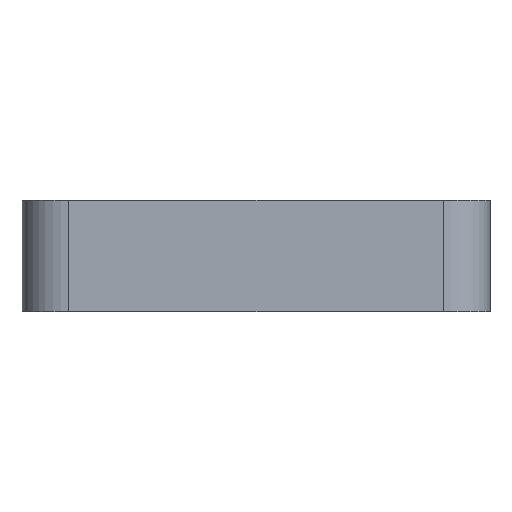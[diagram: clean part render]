
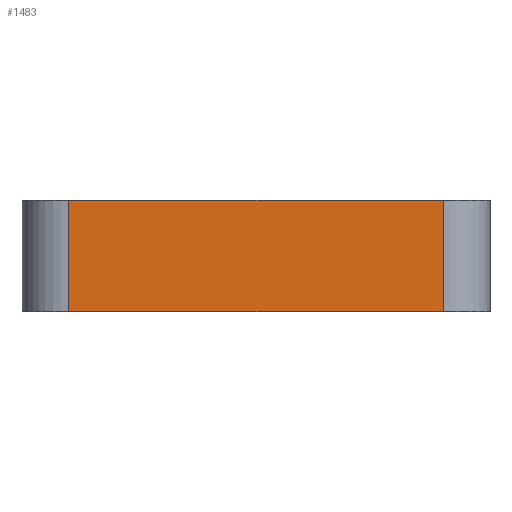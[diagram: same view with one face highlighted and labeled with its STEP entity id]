
A CAD part, left-side view. The second image highlights one B-rep face of the part: STEP entity #1483.
In plain terms, the highlighted planar face has unit normal (-1, 0, 0).
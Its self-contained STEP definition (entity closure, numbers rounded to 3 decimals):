
#44 = CYLINDRICAL_SURFACE('',#45,5.);
#45 = AXIS2_PLACEMENT_3D('',#46,#47,#48);
#46 = CARTESIAN_POINT('',(-18.5,-20.,1.8));
#47 = DIRECTION('',(-0.,-0.,-1.));
#48 = DIRECTION('',(1.,0.,0.));
#72 = PLANE('',#73);
#73 = AXIS2_PLACEMENT_3D('',#74,#75,#76);
#74 = CARTESIAN_POINT('',(0.,0.,13.7));
#75 = DIRECTION('',(0.,0.,1.));
#76 = DIRECTION('',(1.,0.,-0.));
#126 = PLANE('',#127);
#127 = AXIS2_PLACEMENT_3D('',#128,#129,#130);
#128 = CARTESIAN_POINT('',(0.,0.,1.8));
#129 = DIRECTION('',(0.,0.,1.));
#130 = DIRECTION('',(1.,0.,-0.));
#248 = VERTEX_POINT('',#249);
#249 = CARTESIAN_POINT('',(-23.5,-20.,1.8));
#271 = EDGE_CURVE('',#248,#272,#274,.T.);
#272 = VERTEX_POINT('',#273);
#273 = CARTESIAN_POINT('',(-23.5,-20.,13.7));
#274 = SURFACE_CURVE('',#275,(#279,#286),.PCURVE_S1.);
#275 = LINE('',#276,#277);
#276 = CARTESIAN_POINT('',(-23.5,-20.,1.8));
#277 = VECTOR('',#278,1.);
#278 = DIRECTION('',(0.,0.,1.));
#279 = PCURVE('',#44,#280);
#280 = DEFINITIONAL_REPRESENTATION('',(#281),#285);
#281 = LINE('',#282,#283);
#282 = CARTESIAN_POINT('',(-3.142,0.));
#283 = VECTOR('',#284,1.);
#284 = DIRECTION('',(-0.,-1.));
#285 = ( GEOMETRIC_REPRESENTATION_CONTEXT(2) 
PARAMETRIC_REPRESENTATION_CONTEXT() REPRESENTATION_CONTEXT('2D SPACE',''
  ) );
#286 = PCURVE('',#287,#292);
#287 = PLANE('',#288);
#288 = AXIS2_PLACEMENT_3D('',#289,#290,#291);
#289 = CARTESIAN_POINT('',(-23.5,20.,1.8));
#290 = DIRECTION('',(1.,0.,-0.));
#291 = DIRECTION('',(0.,-1.,0.));
#292 = DEFINITIONAL_REPRESENTATION('',(#293),#297);
#293 = LINE('',#294,#295);
#294 = CARTESIAN_POINT('',(40.,0.));
#295 = VECTOR('',#296,1.);
#296 = DIRECTION('',(0.,-1.));
#297 = ( GEOMETRIC_REPRESENTATION_CONTEXT(2) 
PARAMETRIC_REPRESENTATION_CONTEXT() REPRESENTATION_CONTEXT('2D SPACE',''
  ) );
#325 = EDGE_CURVE('',#326,#248,#328,.T.);
#326 = VERTEX_POINT('',#327);
#327 = CARTESIAN_POINT('',(-23.5,20.,1.8));
#328 = SURFACE_CURVE('',#329,(#333,#340),.PCURVE_S1.);
#329 = LINE('',#330,#331);
#330 = CARTESIAN_POINT('',(-23.5,20.,1.8));
#331 = VECTOR('',#332,1.);
#332 = DIRECTION('',(0.,-1.,0.));
#333 = PCURVE('',#126,#334);
#334 = DEFINITIONAL_REPRESENTATION('',(#335),#339);
#335 = LINE('',#336,#337);
#336 = CARTESIAN_POINT('',(-23.5,20.));
#337 = VECTOR('',#338,1.);
#338 = DIRECTION('',(0.,-1.));
#339 = ( GEOMETRIC_REPRESENTATION_CONTEXT(2) 
PARAMETRIC_REPRESENTATION_CONTEXT() REPRESENTATION_CONTEXT('2D SPACE',''
  ) );
#340 = PCURVE('',#287,#341);
#341 = DEFINITIONAL_REPRESENTATION('',(#342),#346);
#342 = LINE('',#343,#344);
#343 = CARTESIAN_POINT('',(0.,0.));
#344 = VECTOR('',#345,1.);
#345 = DIRECTION('',(1.,0.));
#346 = ( GEOMETRIC_REPRESENTATION_CONTEXT(2) 
PARAMETRIC_REPRESENTATION_CONTEXT() REPRESENTATION_CONTEXT('2D SPACE',''
  ) );
#474 = CYLINDRICAL_SURFACE('',#475,5.);
#475 = AXIS2_PLACEMENT_3D('',#476,#477,#478);
#476 = CARTESIAN_POINT('',(-18.5,20.,1.8));
#477 = DIRECTION('',(-0.,-0.,-1.));
#478 = DIRECTION('',(1.,0.,0.));
#995 = EDGE_CURVE('',#996,#272,#998,.T.);
#996 = VERTEX_POINT('',#997);
#997 = CARTESIAN_POINT('',(-23.5,20.,13.7));
#998 = SURFACE_CURVE('',#999,(#1003,#1010),.PCURVE_S1.);
#999 = LINE('',#1000,#1001);
#1000 = CARTESIAN_POINT('',(-23.5,20.,13.7));
#1001 = VECTOR('',#1002,1.);
#1002 = DIRECTION('',(0.,-1.,0.));
#1003 = PCURVE('',#72,#1004);
#1004 = DEFINITIONAL_REPRESENTATION('',(#1005),#1009);
#1005 = LINE('',#1006,#1007);
#1006 = CARTESIAN_POINT('',(-23.5,20.));
#1007 = VECTOR('',#1008,1.);
#1008 = DIRECTION('',(0.,-1.));
#1009 = ( GEOMETRIC_REPRESENTATION_CONTEXT(2) 
PARAMETRIC_REPRESENTATION_CONTEXT() REPRESENTATION_CONTEXT('2D SPACE',''
  ) );
#1010 = PCURVE('',#287,#1011);
#1011 = DEFINITIONAL_REPRESENTATION('',(#1012),#1016);
#1012 = LINE('',#1013,#1014);
#1013 = CARTESIAN_POINT('',(0.,-11.9));
#1014 = VECTOR('',#1015,1.);
#1015 = DIRECTION('',(1.,0.));
#1016 = ( GEOMETRIC_REPRESENTATION_CONTEXT(2) 
PARAMETRIC_REPRESENTATION_CONTEXT() REPRESENTATION_CONTEXT('2D SPACE',''
  ) );
#1483 = ADVANCED_FACE('',(#1484),#287,.F.);
#1484 = FACE_BOUND('',#1485,.F.);
#1485 = EDGE_LOOP('',(#1486,#1507,#1508,#1509));
#1486 = ORIENTED_EDGE('',*,*,#1487,.T.);
#1487 = EDGE_CURVE('',#326,#996,#1488,.T.);
#1488 = SURFACE_CURVE('',#1489,(#1493,#1500),.PCURVE_S1.);
#1489 = LINE('',#1490,#1491);
#1490 = CARTESIAN_POINT('',(-23.5,20.,1.8));
#1491 = VECTOR('',#1492,1.);
#1492 = DIRECTION('',(0.,0.,1.));
#1493 = PCURVE('',#287,#1494);
#1494 = DEFINITIONAL_REPRESENTATION('',(#1495),#1499);
#1495 = LINE('',#1496,#1497);
#1496 = CARTESIAN_POINT('',(0.,0.));
#1497 = VECTOR('',#1498,1.);
#1498 = DIRECTION('',(0.,-1.));
#1499 = ( GEOMETRIC_REPRESENTATION_CONTEXT(2) 
PARAMETRIC_REPRESENTATION_CONTEXT() REPRESENTATION_CONTEXT('2D SPACE',''
  ) );
#1500 = PCURVE('',#474,#1501);
#1501 = DEFINITIONAL_REPRESENTATION('',(#1502),#1506);
#1502 = LINE('',#1503,#1504);
#1503 = CARTESIAN_POINT('',(-3.142,0.));
#1504 = VECTOR('',#1505,1.);
#1505 = DIRECTION('',(-0.,-1.));
#1506 = ( GEOMETRIC_REPRESENTATION_CONTEXT(2) 
PARAMETRIC_REPRESENTATION_CONTEXT() REPRESENTATION_CONTEXT('2D SPACE',''
  ) );
#1507 = ORIENTED_EDGE('',*,*,#995,.T.);
#1508 = ORIENTED_EDGE('',*,*,#271,.F.);
#1509 = ORIENTED_EDGE('',*,*,#325,.F.);
